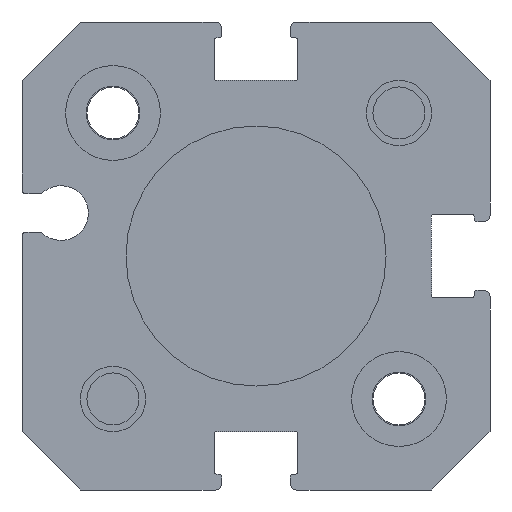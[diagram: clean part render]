
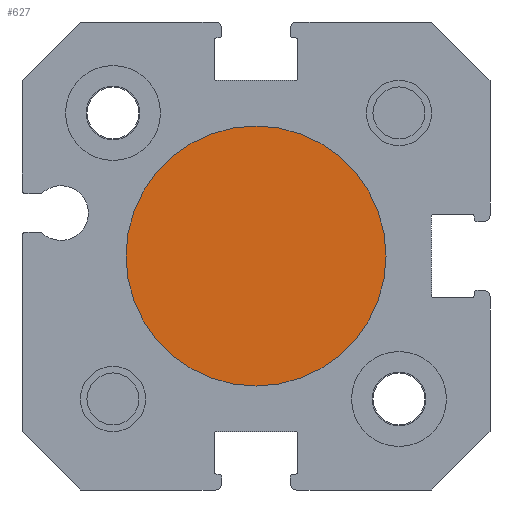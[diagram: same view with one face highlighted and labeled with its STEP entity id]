
A CAD part, front view. The second image highlights one B-rep face of the part: STEP entity #627.
In plain terms, the highlighted planar face has unit normal (0, -1, 0).
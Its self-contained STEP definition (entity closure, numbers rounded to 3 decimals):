
#627 = ADVANCED_FACE( '', ( #1339 ), #1340, .F. );
#1339 = FACE_OUTER_BOUND( '', #2109, .T. );
#1340 = PLANE( '', #2110 );
#2109 = EDGE_LOOP( '', ( #3706 ) );
#2110 = AXIS2_PLACEMENT_3D( '', #3707, #3708, #3709 );
#3706 = ORIENTED_EDGE( '', *, *, #4766, .F. );
#3707 = CARTESIAN_POINT( '', ( 0., 1., 0. ) );
#3708 = DIRECTION( '', ( 0., 1., 0. ) );
#3709 = DIRECTION( '', ( 0., 0., 1. ) );
#4766 = EDGE_CURVE( '', #5807, #5807, #5808, .T. );
#5807 = VERTEX_POINT( '', #7151 );
#5808 = CIRCLE( '', #7152, 10. );
#7151 = CARTESIAN_POINT( '', ( 10., 1., 0. ) );
#7152 = AXIS2_PLACEMENT_3D( '', #8046, #8047, #8048 );
#8046 = CARTESIAN_POINT( '', ( 0., 1., 0. ) );
#8047 = DIRECTION( '', ( 0., 1., 0. ) );
#8048 = DIRECTION( '', ( 1., 0., 0. ) );
